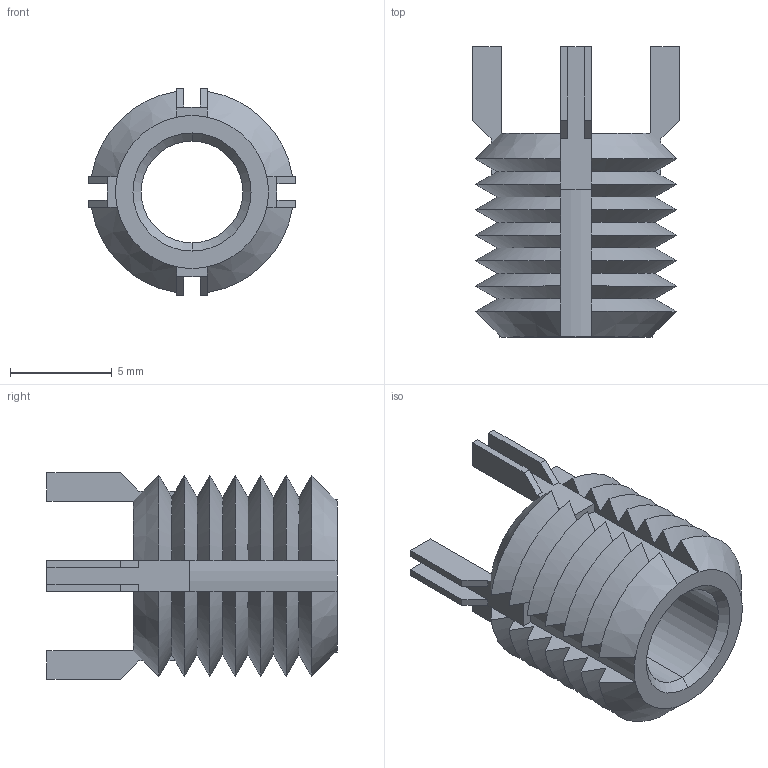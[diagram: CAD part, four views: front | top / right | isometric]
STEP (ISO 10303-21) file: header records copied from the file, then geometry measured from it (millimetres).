
FILE_DESCRIPTION (( 'STEP AP203' ), '1' );
FILE_NAME ('22002.W5640.step', '2023-03-20T19:27:16', ( '' ), ( '' ), 'SwSTEP 2.0', 'SolidWorks 2019', '' );
FILE_SCHEMA (( 'CONFIG_CONTROL_DESIGN' ));
Length unit declared in the file: millimetre
Products named in the file (1): 22002.W5640
Bounding box: 10.15 x 14.25 x 10.15 mm (x, y, z)
Volume: 411.9 mm3; surface area: 848.3 mm2
Topology: 1 solids, 1 shells, 140 faces, 370 edges, 232 vertices
Faces by surface type: plane 74, cone 60, cylinder 6
Entity records: 4475 total; most frequent: CARTESIAN_POINT 1151, ORIENTED_EDGE 740, DIRECTION 592, EDGE_CURVE 370, VERTEX_POINT 232, AXIS2_PLACEMENT_3D 217, LINE 158, VECTOR 158
